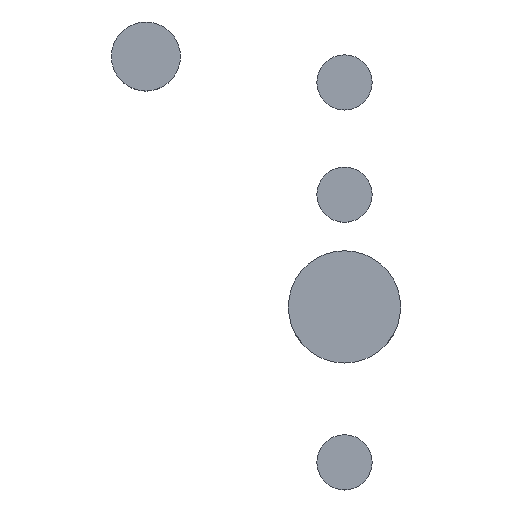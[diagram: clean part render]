
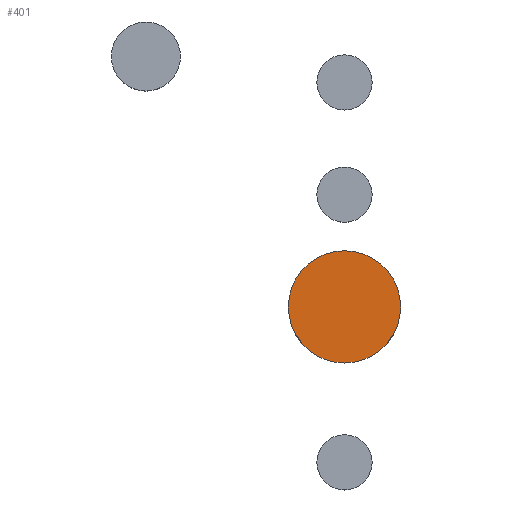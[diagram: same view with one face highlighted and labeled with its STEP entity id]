
A CAD part, top view. The second image highlights one B-rep face of the part: STEP entity #401.
In plain terms, the highlighted planar face has unit normal (0, 0, 1).
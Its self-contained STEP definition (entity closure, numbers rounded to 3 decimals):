
#308 = VERTEX_POINT('',#309);
#309 = CARTESIAN_POINT('',(-42.5,-2.,-44.8));
#316 = CYLINDRICAL_SURFACE('',#317,6.5);
#317 = AXIS2_PLACEMENT_3D('',#318,#319,#320);
#318 = CARTESIAN_POINT('',(-36.,-2.,-47.));
#319 = DIRECTION('',(0.,-0.,-1.));
#320 = DIRECTION('',(-1.,-0.,-0.));
#335 = EDGE_CURVE('',#308,#308,#336,.T.);
#336 = SURFACE_CURVE('',#337,(#342,#349),.PCURVE_S1.);
#337 = CIRCLE('',#338,6.5);
#338 = AXIS2_PLACEMENT_3D('',#339,#340,#341);
#339 = CARTESIAN_POINT('',(-36.,-2.,-44.8));
#340 = DIRECTION('',(0.,0.,-1.));
#341 = DIRECTION('',(-1.,-0.,-0.));
#342 = PCURVE('',#316,#343);
#343 = DEFINITIONAL_REPRESENTATION('',(#344),#348);
#344 = LINE('',#345,#346);
#345 = CARTESIAN_POINT('',(0.,-2.2));
#346 = VECTOR('',#347,1.);
#347 = DIRECTION('',(1.,0.));
#348 = ( GEOMETRIC_REPRESENTATION_CONTEXT(2) 
PARAMETRIC_REPRESENTATION_CONTEXT() REPRESENTATION_CONTEXT('2D SPACE',''
  ) );
#349 = PCURVE('',#350,#355);
#350 = PLANE('',#351);
#351 = AXIS2_PLACEMENT_3D('',#352,#353,#354);
#352 = CARTESIAN_POINT('',(-36.,-2.,-44.8));
#353 = DIRECTION('',(-0.,-0.,1.));
#354 = DIRECTION('',(1.,0.,0.));
#355 = DEFINITIONAL_REPRESENTATION('',(#356),#364);
#356 = ( BOUNDED_CURVE() B_SPLINE_CURVE(2,(#357,#358,#359,#360,#361,#362
,#363),.UNSPECIFIED.,.T.,.F.) B_SPLINE_CURVE_WITH_KNOTS((1,2,2,2,2,1),(
    -2.094,0.,2.094,4.189,6.283,
8.378),.UNSPECIFIED.) CURVE() GEOMETRIC_REPRESENTATION_ITEM() 
RATIONAL_B_SPLINE_CURVE((1.,0.5,1.,0.5,1.,0.5,1.)) REPRESENTATION_ITEM(
  '') );
#357 = CARTESIAN_POINT('',(-6.5,0.));
#358 = CARTESIAN_POINT('',(-6.5,11.258));
#359 = CARTESIAN_POINT('',(3.25,5.629));
#360 = CARTESIAN_POINT('',(13.,0.));
#361 = CARTESIAN_POINT('',(3.25,-5.629));
#362 = CARTESIAN_POINT('',(-6.5,-11.258));
#363 = CARTESIAN_POINT('',(-6.5,0.));
#364 = ( GEOMETRIC_REPRESENTATION_CONTEXT(2) 
PARAMETRIC_REPRESENTATION_CONTEXT() REPRESENTATION_CONTEXT('2D SPACE',''
  ) );
#401 = ADVANCED_FACE('',(#402),#350,.T.);
#402 = FACE_BOUND('',#403,.F.);
#403 = EDGE_LOOP('',(#404));
#404 = ORIENTED_EDGE('',*,*,#335,.T.);
